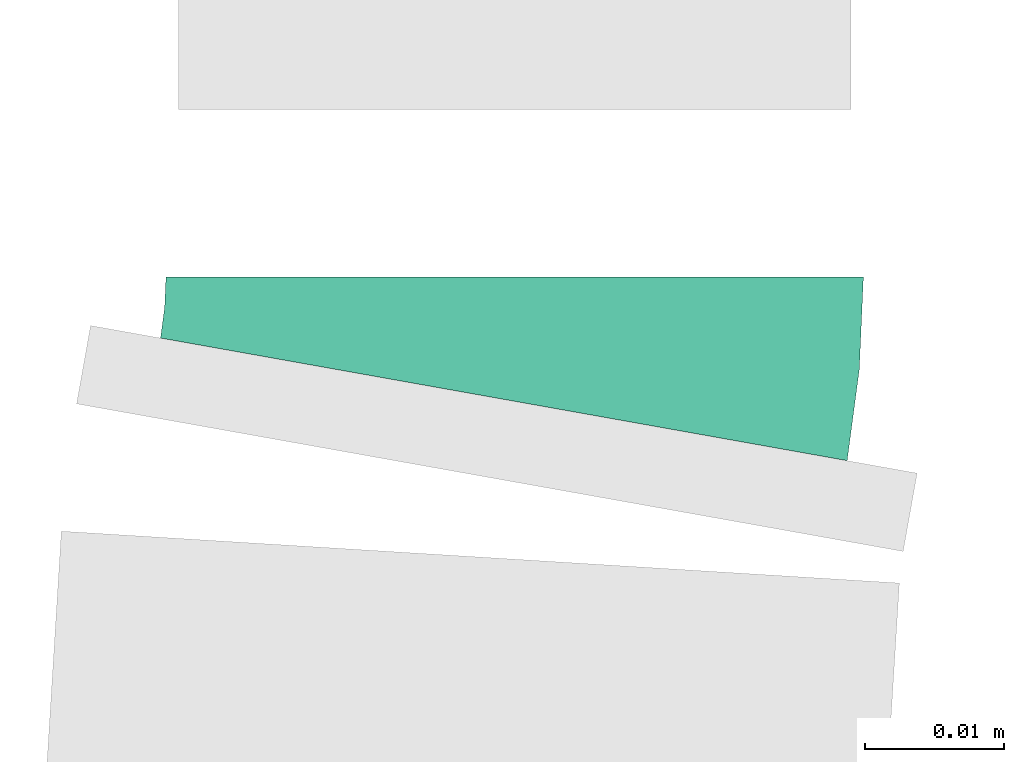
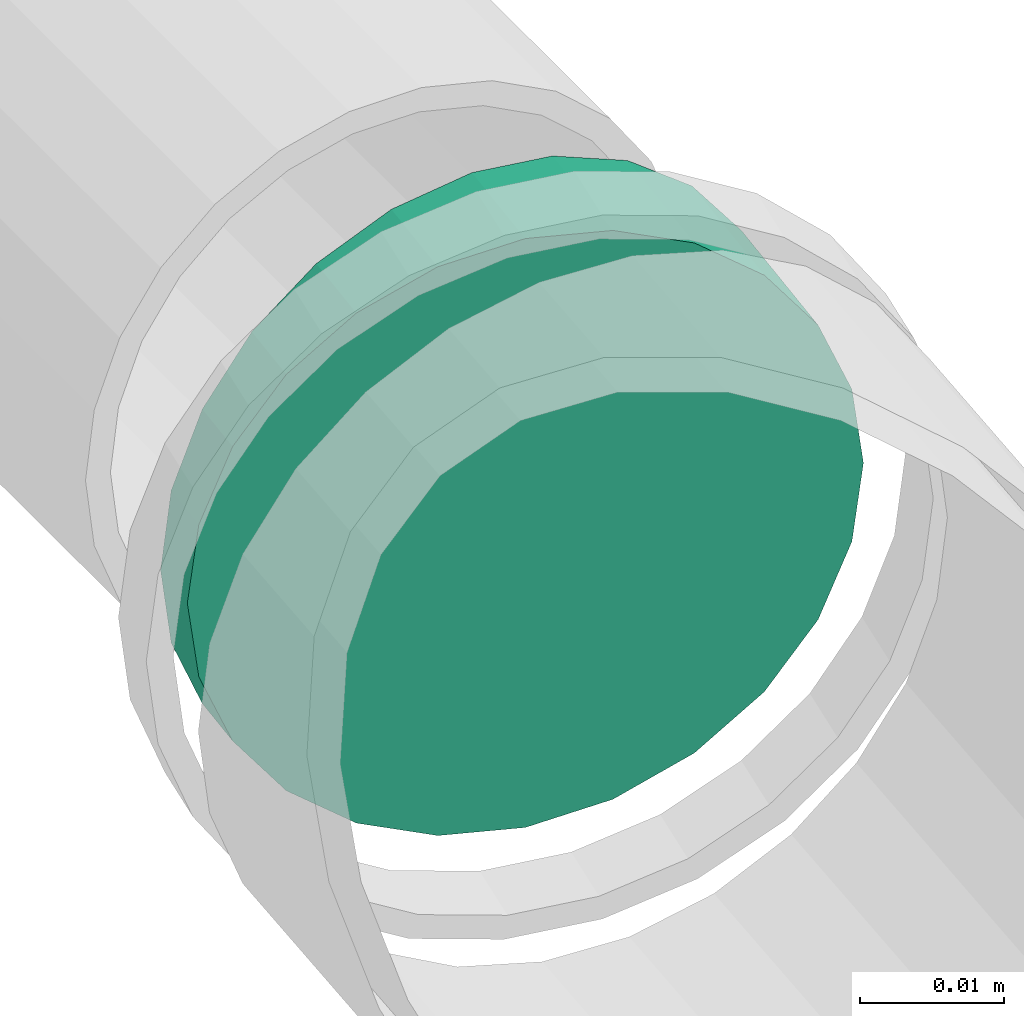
# One storey, part 155 of 156: 1 flow fitting.
"""IFC2X3 building model written with IfcOpenShell, lengths in millimetres."""

from ifc_helpers import new_model, entity, si_unit, converted_unit, derived_unit, direction, frame, origin_with_axes, place, context, subcontext, project, spatial, open_shell, surface_model, source, transform, mapped, type_object, element, save


model = new_model("IFC2X3")

# Units and contexts
model_context = context("Model", 3, precision=0.01, world=frame((0.0, 4.29681676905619e-09, 0.0)), true_north=direction((4.01073788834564e-13, 1.0)))
plan_context = context("Plan", 3, precision=0.01, world=frame((0.0, 4.29681676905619e-09, 0.0)), true_north=direction((4.01073788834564e-13, 1.0)))
body_context = subcontext(model_context, "Body", "Model", "MODEL_VIEW")
ifc_project = project(units=[converted_unit("PLANEANGLEUNIT", "DEGREE", entity("IfcPositiveLengthMeasure", 0.0174532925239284), si_unit("PLANEANGLEUNIT", "RADIAN"), dimensions=[0, 0, 0, 0, 0, 0, 0]), si_unit("AREAUNIT", "SQUARE_METRE"), si_unit("LENGTHUNIT", "METRE", prefix="MILLI"), si_unit("MASSUNIT", "GRAM", prefix="KILO"), si_unit("POWERUNIT", "WATT"), si_unit("PRESSUREUNIT", "PASCAL", prefix="KILO"), si_unit("FORCEUNIT", "NEWTON", prefix="KILO"), si_unit("ELECTRICVOLTAGEUNIT", "VOLT"), si_unit("ELECTRICCURRENTUNIT", "AMPERE"), si_unit("THERMODYNAMICTEMPERATUREUNIT", "DEGREE_CELSIUS"), si_unit("TIMEUNIT", "SECOND"), si_unit("VOLUMEUNIT", "CUBIC_METRE"), derived_unit("LINEARVELOCITYUNIT", [(si_unit("LENGTHUNIT", "METRE"), 1), (si_unit("TIMEUNIT", "SECOND"), -1)]), derived_unit("VOLUMETRICFLOWRATEUNIT", [(si_unit("VOLUMEUNIT", "CUBIC_METRE"), 1), (si_unit("TIMEUNIT", "SECOND"), -1)]), derived_unit("THERMALTRANSMITTANCEUNIT", [(si_unit("POWERUNIT", "WATT"), 1), (si_unit("THERMODYNAMICTEMPERATUREUNIT", "KELVIN"), -1), (si_unit("AREAUNIT", "SQUARE_METRE"), -1)]), derived_unit("SOUNDPRESSUREUNIT", [(si_unit("PRESSUREUNIT", "PASCAL"), 1)])], contexts=[model_context, plan_context])

# Site, building, storey
site_placement = place(None, frame((0.0, -4.29681676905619e-09, 0.0), z_axis=(0.0, 0.0, 1.0), x_axis=(1.0, 0.0, 0.0)))
site = spatial("IfcSite", under=ifc_project, at=site_placement, CompositionType="ELEMENT")
building_placement = place(site_placement, frame((0.0, 4.29681676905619e-09, 0.0), z_axis=(0.0, 0.0, 1.0), x_axis=(1.0, 0.0, 0.0)))
building = spatial("IfcBuilding", under=site, at=building_placement, Name="mc-building", CompositionType="ELEMENT")
storey_placement = place(building_placement, frame((0.0, 0.0, 205200.0), z_axis=(0.0, 0.0, 1.0), x_axis=(1.0, 0.0, 0.0)))
storey = spatial("IfcBuildingStorey", under=building, at=storey_placement, Name="Nivå D + 1,2 m", CompositionType="ELEMENT", Elevation=205200.0)

# Flow fitting
pipe_fitting_type = type_object("IfcPipeFittingType", Name="magi_pipe_elbow_short_001", PredefinedType="BEND")
shared_shape = source(origin_with_axes(), body_context, "Body", "SurfaceModel", [
    surface_model("IfcShellBasedSurfaceModel", [(-4.42925, 6.47048, -24.14815), (-4.42925, 0.0, -25.0), (-4.42925, 24.14815, -6.47048), (-4.42925, 12.5, -21.65064), (-4.42925, 21.65064, -12.5), (-4.42925, 17.67767, -17.67767), (-4.42925, -17.67767, -17.67767), (-4.42925, -12.5, -21.65064), (-4.42925, -6.47048, -24.14815), (-4.42925, -21.65064, -12.5), (-4.42925, -24.14815, -6.47048), (-4.42925, -12.5, 21.65064), (-4.42925, -25.0, 0.0), (-4.42925, -24.14815, 6.47048), (-4.42925, 24.14815, 6.47048), (-4.42925, 25.0, 0.0), (-4.42925, 6.47048, 24.14815), (-4.42925, 21.65064, 12.5), (-4.42925, 17.67767, 17.67767), (-4.42925, 12.5, 21.65064), (-4.42925, -21.65064, 12.5), (-4.42925, -17.67767, 17.67767), (-4.42925, -6.47048, 24.14815), (-4.42925, 0.0, 25.0), (4.36028, 0.77862, -25.0), (3.22283, 7.14834, -24.14815), (2.1629, 13.08397, -21.65064), (0.11526, 24.55072, -6.47048), (1.25271, 18.18101, -17.67767), (0.5543, 22.0921, -12.5), (7.46785, -16.62376, -17.67767), (5.49773, -5.59109, -24.14815), (6.55766, -11.52672, -21.65064), (8.6053, -22.99348, -6.47048), (8.16626, -20.53486, -12.5), (8.6053, -22.99348, 6.47048), (8.75505, -23.83207, 0.0), (0.5543, 22.0921, 12.5), (-0.03449, 25.38931, 0.0), (0.11526, 24.55072, 6.47048), (5.49773, -5.59109, 24.14815), (1.25271, 18.18101, 17.67767), (2.1629, 13.08397, 21.65064), (3.22283, 7.14834, 24.14815), (7.46785, -16.62376, 17.67767), (8.16626, -20.53486, 12.5), (6.55766, -11.52672, 21.65064), (4.36028, 0.77862, 25.0), (-2.22327, 25.09752, 0.0), (2.18871, -24.70745, 0.0)], [open_shell([[[0, 1, 2]], [[3, 0, 2]], [[2, 4, 5]], [[3, 2, 5]], [[6, 2, 1]], [[7, 6, 8]], [[6, 1, 8]], [[9, 10, 6]], [[11, 6, 10]], [[10, 12, 13]], [[2, 6, 11]], [[14, 15, 16]], [[17, 14, 18]], [[14, 16, 19]], [[18, 14, 19]], [[11, 16, 15]], [[20, 21, 13]], [[11, 13, 21]], [[10, 13, 11]], [[11, 22, 16]], [[22, 23, 16]], [[15, 2, 11]], [[24, 25, 26]], [[24, 26, 27]], [[28, 29, 27]], [[28, 27, 26]], [[24, 27, 30]], [[31, 30, 32]], [[31, 24, 30]], [[30, 33, 34]], [[33, 30, 35]], [[35, 36, 33]], [[37, 30, 27]], [[38, 39, 37]], [[40, 30, 37]], [[41, 42, 43]], [[41, 43, 37]], [[40, 37, 43]], [[35, 44, 45]], [[44, 35, 46]], [[46, 35, 30]], [[40, 46, 30]], [[43, 47, 40]], [[37, 27, 38]], [[44, 11, 21]], [[21, 20, 45]], [[47, 23, 22]], [[23, 43, 16]], [[11, 46, 22]], [[13, 35, 20]], [[17, 18, 37]], [[19, 41, 18]], [[48, 14, 39]], [[48, 15, 14]], [[39, 14, 17]], [[42, 19, 16]], [[13, 12, 49]], [[46, 40, 22]], [[11, 44, 46]], [[40, 47, 22]], [[20, 35, 45]], [[21, 45, 44]], [[35, 49, 36]], [[37, 39, 17]], [[38, 48, 39]], [[42, 16, 43]], [[19, 42, 41]], [[37, 18, 41]], [[43, 23, 47]], [[13, 49, 35]], [[0, 24, 1]], [[1, 24, 8]], [[29, 5, 4]], [[5, 28, 3]], [[3, 26, 0]], [[4, 2, 27]], [[49, 12, 10]], [[33, 49, 10]], [[30, 6, 7]], [[10, 9, 33]], [[6, 34, 9]], [[32, 7, 8]], [[2, 15, 48]], [[48, 38, 27]], [[27, 29, 4]], [[3, 28, 26]], [[0, 26, 25]], [[5, 29, 28]], [[25, 24, 0]], [[32, 8, 31]], [[30, 7, 32]], [[9, 34, 33]], [[33, 36, 49]], [[34, 6, 30]], [[24, 31, 8]], [[2, 48, 27]]])]),
])
flow_fitting_placement = place(storey_placement, frame((343991.12466, 461467.59861, 4255.43497999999), z_axis=(0.0, 0.0, 1.0), x_axis=(0.175790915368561, 0.984427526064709, 0.0)))
element("IfcFlowFitting", 1, at=flow_fitting_placement, inside=storey, type_object=pipe_fitting_type, Name="magi_pipe_elbow_short_001", context=body_context, shape_type="MappedRepresentation", body=[
    mapped(shared_shape, transform((0.0, 0.0, 0.0), scale=1.0)),
])

save(model, "model.ifc")
